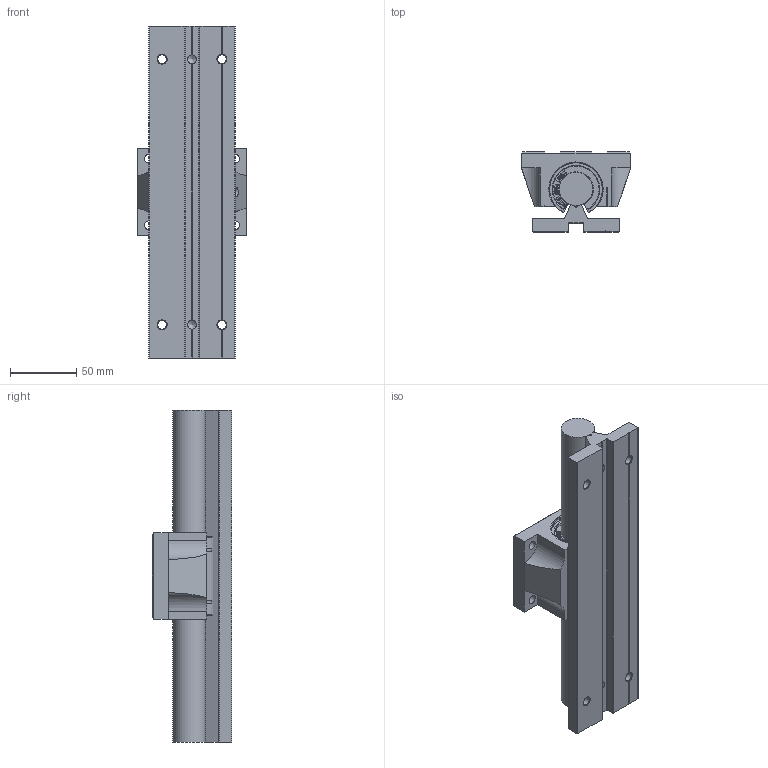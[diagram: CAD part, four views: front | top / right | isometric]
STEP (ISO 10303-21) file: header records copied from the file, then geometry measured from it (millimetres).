
FILE_DESCRIPTION((''),'2;1');
FILE_NAME('D:\STEP\Case Unit\TBR\TBR25UU.stp','2013-02-07T13:08:50',('user2'),(''),'Autodesk Inventor 2012','Autodesk Inventor 2012','');
FILE_SCHEMA(('AUTOMOTIVE_DESIGN { 1 0 10303 214 1 1 1 1 }'));
Length unit declared in the file: millimetre
Products named in the file (4): TBR25UU; LM25UUOP; TBS25
Assembly tree (3 placements, depth 2):
  TBR25UU
    TBR25UU
    LM25UUOP
    TBS25
Bounding box: 82 x 60 x 250 mm (x, y, z)
Volume: 437236.1 mm3; surface area: 106149.5 mm2
Topology: 3 solids, 3 shells, 1004 faces, 2865 edges, 1892 vertices
Faces by surface type: bspline 612, plane 316, cylinder 51, cone 23, torus 2
Full cylindrical faces by diameter (mm): 3.242 x1, 4.917 x1, 6.5 x4, 6.6 x4, 6.647 x4, 7 x1
Entity records: 34238 total; most frequent: CARTESIAN_POINT 11485, ORIENTED_EDGE 5640, EDGE_CURVE 2820, DIRECTION 2507, VERTEX_POINT 1875, VECTOR 1425, LINE 1425, QUASI_UNIFORM_CURVE 1224
